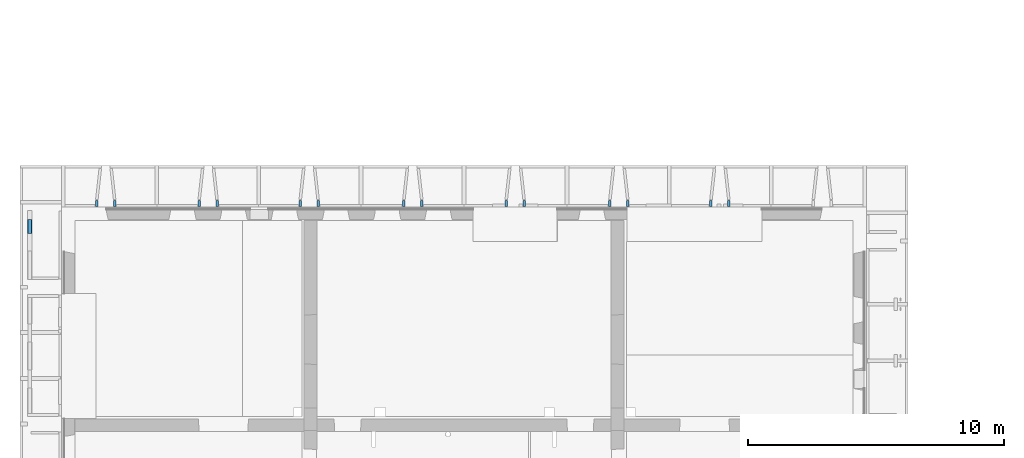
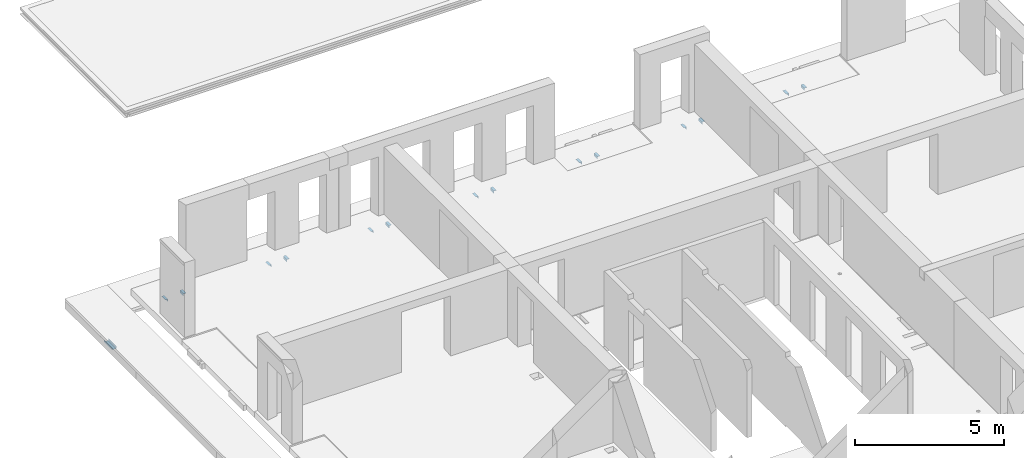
# One storey, part 18 of 27: 15 beams.
"""IFC2X3 building model written with IfcOpenShell, lengths in millimetres."""

from ifc_helpers import new_model, entity, si_unit, converted_unit, derived_unit, direction, frame, frame_2d, origin, place, context, subcontext, project, spatial, polyline, circle_curve, parameter, trimmed, segment, composite_curve, outline, extrude, material, type_object, element, save


model = new_model("IFC2X3")

# Units and contexts
model_context = context("Model", 3, precision=0.01, world=origin(), true_north=direction((6.12303176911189e-17, 1.0)))
body_context = subcontext(model_context, "Body", "Model", "MODEL_VIEW")
ifc_project = project(units=[si_unit("LENGTHUNIT", "METRE", prefix="MILLI"), si_unit("AREAUNIT", "SQUARE_METRE"), si_unit("VOLUMEUNIT", "CUBIC_METRE"), converted_unit("PLANEANGLEUNIT", "DEGREE", entity("IfcRatioMeasure", 0.0174532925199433), si_unit("PLANEANGLEUNIT", "RADIAN"), dimensions=[0, 0, 0, 0, 0, 0, 0]), si_unit("MASSUNIT", "GRAM", prefix="KILO"), derived_unit("MASSDENSITYUNIT", [(si_unit("MASSUNIT", "GRAM", prefix="KILO"), 1), (si_unit("LENGTHUNIT", "METRE"), -3)]), si_unit("TIMEUNIT", "SECOND"), si_unit("FREQUENCYUNIT", "HERTZ"), si_unit("THERMODYNAMICTEMPERATUREUNIT", "DEGREE_CELSIUS"), derived_unit("THERMALTRANSMITTANCEUNIT", [(si_unit("MASSUNIT", "GRAM", prefix="KILO"), 1), (si_unit("THERMODYNAMICTEMPERATUREUNIT", "KELVIN"), -1), (si_unit("TIMEUNIT", "SECOND"), -3)]), derived_unit("VOLUMETRICFLOWRATEUNIT", [(si_unit("LENGTHUNIT", "METRE"), 3), (si_unit("TIMEUNIT", "SECOND"), -1)]), si_unit("ELECTRICCURRENTUNIT", "AMPERE"), si_unit("ELECTRICVOLTAGEUNIT", "VOLT"), si_unit("POWERUNIT", "WATT"), si_unit("FORCEUNIT", "NEWTON", prefix="KILO"), si_unit("ILLUMINANCEUNIT", "LUX"), si_unit("LUMINOUSFLUXUNIT", "LUMEN"), si_unit("LUMINOUSINTENSITYUNIT", "CANDELA"), derived_unit("USERDEFINED", [(si_unit("MASSUNIT", "GRAM", prefix="KILO"), -1), (si_unit("LENGTHUNIT", "METRE"), -2), (si_unit("TIMEUNIT", "SECOND"), 3), (si_unit("LUMINOUSFLUXUNIT", "LUMEN"), 1)]), derived_unit("LINEARVELOCITYUNIT", [(si_unit("LENGTHUNIT", "METRE"), 1), (si_unit("TIMEUNIT", "SECOND"), -1)]), si_unit("PRESSUREUNIT", "PASCAL"), derived_unit("USERDEFINED", [(si_unit("LENGTHUNIT", "METRE"), -2), (si_unit("MASSUNIT", "GRAM", prefix="KILO"), 1), (si_unit("TIMEUNIT", "SECOND"), -2)])], contexts=[model_context])

# Site, building, storey
site_placement = place(None, origin())
site = spatial("IfcSite", under=ifc_project, at=site_placement, Name="Default", CompositionType="ELEMENT")
building_placement = place(site_placement, origin())
building = spatial("IfcBuilding", under=site, at=building_placement, Name="niet gebruiken", CompositionType="ELEMENT")
storey_placement = place(building_placement, frame((0.0, 0.0, 18000.0)))
storey = spatial("IfcBuildingStorey", under=building, at=storey_placement, Name="05 vijfde verdieping", CompositionType="ELEMENT", Elevation=18000.0)

# Beams
ifc_material = material(Name="NLRS_h2_staal")
beam_type_1 = type_object("IfcBeamType", Name="NLRS_28.11_SF_WPB_stalen ligger hoekprofiel gelijkzijdig_gen:ligger gelijzijdig hoekprofiel LEQU_100x100x10", PredefinedType="BEAM")
beam_1_placement = place(storey_placement, frame((132150.0, 33490.0, -1015.0), z_axis=(0.0, 0.0, 1.0), x_axis=(0.0, -1.0, 0.0)))
element("IfcBeam", 1, at=beam_1_placement, inside=storey, type_object=beam_type_1, material=ifc_material, Name="NLRS_28.11_SF_WPB_stalen ligger hoekprofiel gelijkzijdig_gen:ligger gelijzijdig hoekprofiel LEQU_100x100x10", ObjectType="NLRS_28.11_SF_WPB_stalen ligger hoekprofiel gelijkzijdig_gen:ligger gelijzijdig hoekprofiel LEQU_100x100x10", context=body_context, shape_type="SweptSolid", body=[
    extrude(outline(composite_curve([segment(polyline([(-37.7777777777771, -37.777777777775), (62.222222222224, -37.777777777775)]), True, "CONTINUOUS"), segment(polyline([(62.2222222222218, -37.777777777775), (62.2222222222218, -33.7777777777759)]), True, "CONTINUOUS"), segment(trimmed(circle_curve(frame_2d((56.2222222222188, -33.7777777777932), x_axis=(1.0, 0.0)), 6.00000000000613), [parameter(0.0)], [parameter(89.9999999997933)], True, "PARAMETER"), True, "CONTINUOUS"), segment(polyline([(56.2222222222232, -27.7777777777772), (-15.7777777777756, -27.7777777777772)]), True, "CONTINUOUS"), segment(trimmed(circle_curve(frame_2d((-15.77777777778, -15.77777777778), x_axis=(0.0, -1.0)), 11.9999999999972), [parameter(269.99999999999)], [parameter(0.0)], True, "PARAMETER"), False, "CONTINUOUS"), segment(polyline([(-27.7777777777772, -15.77777777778), (-27.7777777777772, 56.222222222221)]), True, "CONTINUOUS"), segment(trimmed(circle_curve(frame_2d((-33.7777777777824, 56.2222222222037), x_axis=(1.0, 0.0)), 6.00000000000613), [parameter(0.0)], [parameter(89.9999999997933)], True, "PARAMETER"), True, "CONTINUOUS"), segment(polyline([(-33.777777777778, 62.2222222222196), (-37.7777777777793, 62.2222222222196)]), True, "CONTINUOUS"), segment(polyline([(-37.7777777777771, 62.2222222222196), (-37.7777777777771, -37.777777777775)]), True, "CONTINUOUS")], self_intersect=False)), frame((0.0, -62.2222222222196, -37.7777777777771), z_axis=(1.0, 0.0, 0.0), x_axis=(0.0, 0.0, -1.0)), (0.0, 0.0, 1.0), 240.000000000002),
])
beam_2_placement = place(storey_placement, frame((135300.0, 33490.0, -1015.0), z_axis=(0.0, 0.0, 1.0), x_axis=(0.0, -1.0, 0.0)))
element("IfcBeam", 2, at=beam_2_placement, inside=storey, type_object=beam_type_1, material=ifc_material, Name="NLRS_28.11_SF_WPB_stalen ligger hoekprofiel gelijkzijdig_gen:ligger gelijzijdig hoekprofiel LEQU_100x100x10", ObjectType="NLRS_28.11_SF_WPB_stalen ligger hoekprofiel gelijkzijdig_gen:ligger gelijzijdig hoekprofiel LEQU_100x100x10", context=body_context, shape_type="SweptSolid", body=[
    extrude(outline(composite_curve([segment(polyline([(-37.7777777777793, -62.2222222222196), (-33.777777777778, -62.2222222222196)]), True, "CONTINUOUS"), segment(trimmed(circle_curve(frame_2d((-33.7777777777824, -56.2222222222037), x_axis=(0.0, -1.0)), 6.00000000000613), [parameter(0.0)], [parameter(89.9999999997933)], True, "PARAMETER"), True, "CONTINUOUS"), segment(polyline([(-27.7777777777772, -56.222222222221), (-27.7777777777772, 15.77777777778)]), True, "CONTINUOUS"), segment(trimmed(circle_curve(frame_2d((-15.77777777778, 15.77777777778), x_axis=(-1.0, 0.0)), 11.9999999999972), [parameter(269.99999999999)], [parameter(0.0)], True, "PARAMETER"), False, "CONTINUOUS"), segment(polyline([(-15.7777777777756, 27.7777777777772), (56.2222222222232, 27.7777777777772)]), True, "CONTINUOUS"), segment(trimmed(circle_curve(frame_2d((56.2222222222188, 33.7777777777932), x_axis=(0.0, -1.0)), 6.00000000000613), [parameter(0.0)], [parameter(89.9999999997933)], True, "PARAMETER"), True, "CONTINUOUS"), segment(polyline([(62.2222222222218, 33.7777777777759), (62.2222222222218, 37.777777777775)]), True, "CONTINUOUS"), segment(polyline([(62.222222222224, 37.777777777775), (-37.7777777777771, 37.777777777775)]), True, "CONTINUOUS"), segment(polyline([(-37.7777777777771, 37.777777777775), (-37.7777777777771, -62.2222222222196)]), True, "CONTINUOUS")], self_intersect=False)), frame((0.0, 62.2222222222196, -37.7777777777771), z_axis=(1.0, 0.0, 0.0), x_axis=(0.0, 0.0, -1.0)), (0.0, 0.0, 1.0), 240.000000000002),
])
beam_3_placement = place(storey_placement, frame((136100.0, 33490.0, -1015.0), z_axis=(0.0, 0.0, 1.0), x_axis=(0.0, -1.0, 0.0)))
element("IfcBeam", 3, at=beam_3_placement, inside=storey, type_object=beam_type_1, material=ifc_material, Name="NLRS_28.11_SF_WPB_stalen ligger hoekprofiel gelijkzijdig_gen:ligger gelijzijdig hoekprofiel LEQU_100x100x10", ObjectType="NLRS_28.11_SF_WPB_stalen ligger hoekprofiel gelijkzijdig_gen:ligger gelijzijdig hoekprofiel LEQU_100x100x10", context=body_context, shape_type="SweptSolid", body=[
    extrude(outline(composite_curve([segment(polyline([(-37.7777777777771, -37.777777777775), (62.222222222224, -37.777777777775)]), True, "CONTINUOUS"), segment(polyline([(62.2222222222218, -37.777777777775), (62.2222222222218, -33.7777777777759)]), True, "CONTINUOUS"), segment(trimmed(circle_curve(frame_2d((56.2222222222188, -33.7777777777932), x_axis=(1.0, 0.0)), 6.00000000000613), [parameter(0.0)], [parameter(89.9999999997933)], True, "PARAMETER"), True, "CONTINUOUS"), segment(polyline([(56.2222222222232, -27.7777777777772), (-15.7777777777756, -27.7777777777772)]), True, "CONTINUOUS"), segment(trimmed(circle_curve(frame_2d((-15.77777777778, -15.77777777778), x_axis=(0.0, -1.0)), 11.9999999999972), [parameter(269.99999999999)], [parameter(0.0)], True, "PARAMETER"), False, "CONTINUOUS"), segment(polyline([(-27.7777777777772, -15.77777777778), (-27.7777777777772, 56.222222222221)]), True, "CONTINUOUS"), segment(trimmed(circle_curve(frame_2d((-33.7777777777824, 56.2222222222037), x_axis=(1.0, 0.0)), 6.00000000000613), [parameter(0.0)], [parameter(89.9999999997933)], True, "PARAMETER"), True, "CONTINUOUS"), segment(polyline([(-33.777777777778, 62.2222222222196), (-37.7777777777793, 62.2222222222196)]), True, "CONTINUOUS"), segment(polyline([(-37.7777777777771, 62.2222222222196), (-37.7777777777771, -37.777777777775)]), True, "CONTINUOUS")], self_intersect=False)), frame((0.0, -62.2222222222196, -37.7777777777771), z_axis=(1.0, 0.0, 0.0), x_axis=(0.0, 0.0, -1.0)), (0.0, 0.0, 1.0), 240.000000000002),
])
beam_4_placement = place(storey_placement, frame((139350.0, 33490.0, -1015.0), z_axis=(0.0, 0.0, 1.0), x_axis=(0.0, -1.0, 0.0)))
element("IfcBeam", 4, at=beam_4_placement, inside=storey, type_object=beam_type_1, material=ifc_material, Name="NLRS_28.11_SF_WPB_stalen ligger hoekprofiel gelijkzijdig_gen:ligger gelijzijdig hoekprofiel LEQU_100x100x10", ObjectType="NLRS_28.11_SF_WPB_stalen ligger hoekprofiel gelijkzijdig_gen:ligger gelijzijdig hoekprofiel LEQU_100x100x10", context=body_context, shape_type="SweptSolid", body=[
    extrude(outline(composite_curve([segment(polyline([(-37.7777777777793, -62.2222222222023), (-33.777777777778, -62.2222222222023)]), True, "CONTINUOUS"), segment(trimmed(circle_curve(frame_2d((-33.7777777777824, -56.2222222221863), x_axis=(0.0, -1.0)), 6.00000000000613), [parameter(0.0)], [parameter(89.9999999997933)], True, "PARAMETER"), True, "CONTINUOUS"), segment(polyline([(-27.7777777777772, -56.2222222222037), (-27.7777777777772, 15.7777777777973)]), True, "CONTINUOUS"), segment(trimmed(circle_curve(frame_2d((-15.77777777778, 15.7777777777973), x_axis=(-1.0, 0.0)), 11.9999999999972), [parameter(269.99999999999)], [parameter(0.0)], True, "PARAMETER"), False, "CONTINUOUS"), segment(polyline([(-15.7777777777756, 27.7777777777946), (56.2222222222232, 27.7777777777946)]), True, "CONTINUOUS"), segment(trimmed(circle_curve(frame_2d((56.2222222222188, 33.7777777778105), x_axis=(0.0, -1.0)), 6.00000000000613), [parameter(0.0)], [parameter(89.9999999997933)], True, "PARAMETER"), True, "CONTINUOUS"), segment(polyline([(62.2222222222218, 33.7777777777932), (62.2222222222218, 37.7777777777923)]), True, "CONTINUOUS"), segment(polyline([(62.222222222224, 37.7777777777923), (-37.7777777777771, 37.7777777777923)]), True, "CONTINUOUS"), segment(polyline([(-37.7777777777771, 37.7777777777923), (-37.7777777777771, -62.2222222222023)]), True, "CONTINUOUS")], self_intersect=False)), frame((0.0, 62.2222222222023, -37.7777777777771), z_axis=(1.0, 0.0, 0.0), x_axis=(0.0, 0.0, -1.0)), (0.0, 0.0, 1.0), 240.000000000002),
])
beam_5_placement = place(storey_placement, frame((140150.0, 33490.0, -1015.0), z_axis=(0.0, 0.0, 1.0), x_axis=(0.0, -1.0, 0.0)))
element("IfcBeam", 5, at=beam_5_placement, inside=storey, type_object=beam_type_1, material=ifc_material, Name="NLRS_28.11_SF_WPB_stalen ligger hoekprofiel gelijkzijdig_gen:ligger gelijzijdig hoekprofiel LEQU_100x100x10", ObjectType="NLRS_28.11_SF_WPB_stalen ligger hoekprofiel gelijkzijdig_gen:ligger gelijzijdig hoekprofiel LEQU_100x100x10", context=body_context, shape_type="SweptSolid", body=[
    extrude(outline(composite_curve([segment(polyline([(-37.7777777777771, -37.7777777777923), (62.222222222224, -37.7777777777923)]), True, "CONTINUOUS"), segment(polyline([(62.2222222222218, -37.7777777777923), (62.2222222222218, -33.7777777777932)]), True, "CONTINUOUS"), segment(trimmed(circle_curve(frame_2d((56.2222222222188, -33.7777777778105), x_axis=(1.0, 0.0)), 6.00000000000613), [parameter(0.0)], [parameter(89.9999999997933)], True, "PARAMETER"), True, "CONTINUOUS"), segment(polyline([(56.2222222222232, -27.7777777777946), (-15.7777777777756, -27.7777777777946)]), True, "CONTINUOUS"), segment(trimmed(circle_curve(frame_2d((-15.77777777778, -15.7777777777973), x_axis=(0.0, -1.0)), 11.9999999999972), [parameter(269.99999999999)], [parameter(0.0)], True, "PARAMETER"), False, "CONTINUOUS"), segment(polyline([(-27.7777777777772, -15.7777777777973), (-27.7777777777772, 56.2222222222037)]), True, "CONTINUOUS"), segment(trimmed(circle_curve(frame_2d((-33.7777777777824, 56.2222222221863), x_axis=(1.0, 0.0)), 6.00000000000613), [parameter(0.0)], [parameter(89.9999999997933)], True, "PARAMETER"), True, "CONTINUOUS"), segment(polyline([(-33.777777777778, 62.2222222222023), (-37.7777777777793, 62.2222222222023)]), True, "CONTINUOUS"), segment(polyline([(-37.7777777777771, 62.2222222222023), (-37.7777777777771, -37.7777777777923)]), True, "CONTINUOUS")], self_intersect=False)), frame((0.0, -62.2222222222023, -37.7777777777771), z_axis=(1.0, 0.0, 0.0), x_axis=(0.0, 0.0, -1.0)), (0.0, 0.0, 1.0), 240.000000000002),
])
beam_6_placement = place(storey_placement, frame((143350.0, 33490.0, -1015.0), z_axis=(0.0, 0.0, 1.0), x_axis=(0.0, -1.0, 0.0)))
element("IfcBeam", 6, at=beam_6_placement, inside=storey, type_object=beam_type_1, material=ifc_material, Name="NLRS_28.11_SF_WPB_stalen ligger hoekprofiel gelijkzijdig_gen:ligger gelijzijdig hoekprofiel LEQU_100x100x10", ObjectType="NLRS_28.11_SF_WPB_stalen ligger hoekprofiel gelijkzijdig_gen:ligger gelijzijdig hoekprofiel LEQU_100x100x10", context=body_context, shape_type="SweptSolid", body=[
    extrude(outline(composite_curve([segment(polyline([(-37.7777777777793, -62.2222222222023), (-33.777777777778, -62.2222222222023)]), True, "CONTINUOUS"), segment(trimmed(circle_curve(frame_2d((-33.7777777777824, -56.2222222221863), x_axis=(0.0, -1.0)), 6.00000000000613), [parameter(0.0)], [parameter(89.9999999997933)], True, "PARAMETER"), True, "CONTINUOUS"), segment(polyline([(-27.7777777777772, -56.2222222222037), (-27.7777777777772, 15.7777777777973)]), True, "CONTINUOUS"), segment(trimmed(circle_curve(frame_2d((-15.77777777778, 15.7777777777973), x_axis=(-1.0, 0.0)), 11.9999999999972), [parameter(269.99999999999)], [parameter(0.0)], True, "PARAMETER"), False, "CONTINUOUS"), segment(polyline([(-15.7777777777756, 27.7777777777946), (56.2222222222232, 27.7777777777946)]), True, "CONTINUOUS"), segment(trimmed(circle_curve(frame_2d((56.2222222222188, 33.7777777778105), x_axis=(0.0, -1.0)), 6.00000000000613), [parameter(0.0)], [parameter(89.9999999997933)], True, "PARAMETER"), True, "CONTINUOUS"), segment(polyline([(62.2222222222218, 33.7777777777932), (62.2222222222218, 37.7777777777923)]), True, "CONTINUOUS"), segment(polyline([(62.222222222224, 37.7777777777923), (-37.7777777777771, 37.7777777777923)]), True, "CONTINUOUS"), segment(polyline([(-37.7777777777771, 37.7777777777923), (-37.7777777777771, -62.2222222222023)]), True, "CONTINUOUS")], self_intersect=False)), frame((0.0, 62.2222222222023, -37.7777777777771), z_axis=(1.0, 0.0, 0.0), x_axis=(0.0, 0.0, -1.0)), (0.0, 0.0, 1.0), 240.000000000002),
])
beam_7_placement = place(storey_placement, frame((144150.0, 33490.0, -1015.0), z_axis=(0.0, 0.0, 1.0), x_axis=(0.0, -1.0, 0.0)))
element("IfcBeam", 7, at=beam_7_placement, inside=storey, type_object=beam_type_1, material=ifc_material, Name="NLRS_28.11_SF_WPB_stalen ligger hoekprofiel gelijkzijdig_gen:ligger gelijzijdig hoekprofiel LEQU_100x100x10", ObjectType="NLRS_28.11_SF_WPB_stalen ligger hoekprofiel gelijkzijdig_gen:ligger gelijzijdig hoekprofiel LEQU_100x100x10", context=body_context, shape_type="SweptSolid", body=[
    extrude(outline(composite_curve([segment(polyline([(-37.7777777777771, -37.7777777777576), (62.222222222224, -37.7777777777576)]), True, "CONTINUOUS"), segment(polyline([(62.2222222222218, -37.7777777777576), (62.2222222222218, -33.7777777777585)]), True, "CONTINUOUS"), segment(trimmed(circle_curve(frame_2d((56.2222222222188, -33.7777777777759), x_axis=(1.0, 0.0)), 6.00000000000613), [parameter(0.0)], [parameter(89.9999999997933)], True, "PARAMETER"), True, "CONTINUOUS"), segment(polyline([(56.2222222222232, -27.7777777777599), (-15.7777777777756, -27.7777777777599)]), True, "CONTINUOUS"), segment(trimmed(circle_curve(frame_2d((-15.77777777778, -15.7777777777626), x_axis=(0.0, -1.0)), 11.9999999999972), [parameter(269.99999999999)], [parameter(0.0)], True, "PARAMETER"), False, "CONTINUOUS"), segment(polyline([(-27.7777777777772, -15.7777777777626), (-27.7777777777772, 56.2222222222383)]), True, "CONTINUOUS"), segment(trimmed(circle_curve(frame_2d((-33.7777777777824, 56.222222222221), x_axis=(1.0, 0.0)), 6.00000000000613), [parameter(0.0)], [parameter(89.9999999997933)], True, "PARAMETER"), True, "CONTINUOUS"), segment(polyline([(-33.777777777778, 62.222222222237), (-37.7777777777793, 62.222222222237)]), True, "CONTINUOUS"), segment(polyline([(-37.7777777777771, 62.222222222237), (-37.7777777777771, -37.7777777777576)]), True, "CONTINUOUS")], self_intersect=False)), frame((0.0, -62.222222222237, -37.7777777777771), z_axis=(1.0, 0.0, 0.0), x_axis=(0.0, 0.0, -1.0)), (0.0, 0.0, 1.0), 240.000000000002),
])
beam_8_placement = place(storey_placement, frame((147400.0, 33490.0, -1015.0), z_axis=(0.0, 0.0, 1.0), x_axis=(0.0, -1.0, 0.0)))
element("IfcBeam", 8, at=beam_8_placement, inside=storey, type_object=beam_type_1, material=ifc_material, Name="NLRS_28.11_SF_WPB_stalen ligger hoekprofiel gelijkzijdig_gen:ligger gelijzijdig hoekprofiel LEQU_100x100x10", ObjectType="NLRS_28.11_SF_WPB_stalen ligger hoekprofiel gelijkzijdig_gen:ligger gelijzijdig hoekprofiel LEQU_100x100x10", context=body_context, shape_type="SweptSolid", body=[
    extrude(outline(composite_curve([segment(polyline([(-37.7777777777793, -62.222222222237), (-33.777777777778, -62.222222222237)]), True, "CONTINUOUS"), segment(trimmed(circle_curve(frame_2d((-33.7777777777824, -56.222222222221), x_axis=(0.0, -1.0)), 6.00000000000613), [parameter(0.0)], [parameter(89.9999999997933)], True, "PARAMETER"), True, "CONTINUOUS"), segment(polyline([(-27.7777777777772, -56.2222222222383), (-27.7777777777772, 15.7777777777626)]), True, "CONTINUOUS"), segment(trimmed(circle_curve(frame_2d((-15.77777777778, 15.7777777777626), x_axis=(-1.0, 0.0)), 11.9999999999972), [parameter(269.99999999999)], [parameter(0.0)], True, "PARAMETER"), False, "CONTINUOUS"), segment(polyline([(-15.7777777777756, 27.7777777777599), (56.2222222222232, 27.7777777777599)]), True, "CONTINUOUS"), segment(trimmed(circle_curve(frame_2d((56.2222222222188, 33.7777777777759), x_axis=(0.0, -1.0)), 6.00000000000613), [parameter(0.0)], [parameter(89.9999999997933)], True, "PARAMETER"), True, "CONTINUOUS"), segment(polyline([(62.2222222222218, 33.7777777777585), (62.2222222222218, 37.7777777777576)]), True, "CONTINUOUS"), segment(polyline([(62.222222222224, 37.7777777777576), (-37.7777777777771, 37.7777777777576)]), True, "CONTINUOUS"), segment(polyline([(-37.7777777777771, 37.7777777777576), (-37.7777777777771, -62.222222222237)]), True, "CONTINUOUS")], self_intersect=False)), frame((0.0, 62.222222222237, -37.7777777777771), z_axis=(1.0, 0.0, 0.0), x_axis=(0.0, 0.0, -1.0)), (0.0, 0.0, 1.0), 240.000000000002),
])
beam_9_placement = place(storey_placement, frame((128150.0, 33490.0, -1015.0), z_axis=(0.0, 0.0, 1.0), x_axis=(0.0, -1.0, 0.0)))
element("IfcBeam", 9, at=beam_9_placement, inside=storey, type_object=beam_type_1, material=ifc_material, Name="NLRS_28.11_SF_WPB_stalen ligger hoekprofiel gelijkzijdig_gen:ligger gelijzijdig hoekprofiel LEQU_100x100x10", ObjectType="NLRS_28.11_SF_WPB_stalen ligger hoekprofiel gelijkzijdig_gen:ligger gelijzijdig hoekprofiel LEQU_100x100x10", context=body_context, shape_type="SweptSolid", body=[
    extrude(outline(composite_curve([segment(polyline([(-37.7777777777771, -37.7777777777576), (62.222222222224, -37.7777777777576)]), True, "CONTINUOUS"), segment(polyline([(62.2222222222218, -37.7777777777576), (62.2222222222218, -33.7777777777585)]), True, "CONTINUOUS"), segment(trimmed(circle_curve(frame_2d((56.2222222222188, -33.7777777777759), x_axis=(1.0, 0.0)), 6.00000000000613), [parameter(0.0)], [parameter(89.9999999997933)], True, "PARAMETER"), True, "CONTINUOUS"), segment(polyline([(56.2222222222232, -27.7777777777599), (-15.7777777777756, -27.7777777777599)]), True, "CONTINUOUS"), segment(trimmed(circle_curve(frame_2d((-15.77777777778, -15.7777777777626), x_axis=(0.0, -1.0)), 11.9999999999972), [parameter(269.99999999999)], [parameter(0.0)], True, "PARAMETER"), False, "CONTINUOUS"), segment(polyline([(-27.7777777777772, -15.7777777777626), (-27.7777777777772, 56.2222222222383)]), True, "CONTINUOUS"), segment(trimmed(circle_curve(frame_2d((-33.7777777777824, 56.222222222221), x_axis=(1.0, 0.0)), 6.00000000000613), [parameter(0.0)], [parameter(89.9999999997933)], True, "PARAMETER"), True, "CONTINUOUS"), segment(polyline([(-33.777777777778, 62.222222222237), (-37.7777777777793, 62.222222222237)]), True, "CONTINUOUS"), segment(polyline([(-37.7777777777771, 62.222222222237), (-37.7777777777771, -37.7777777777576)]), True, "CONTINUOUS")], self_intersect=False)), frame((0.0, -62.222222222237, -37.7777777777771), z_axis=(1.0, 0.0, 0.0), x_axis=(0.0, 0.0, -1.0)), (0.0, 0.0, 1.0), 240.000000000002),
])
beam_10_placement = place(storey_placement, frame((131350.0, 33490.0, -1015.0), z_axis=(0.0, 0.0, 1.0), x_axis=(0.0, -1.0, 0.0)))
element("IfcBeam", 10, at=beam_10_placement, inside=storey, type_object=beam_type_1, material=ifc_material, Name="NLRS_28.11_SF_WPB_stalen ligger hoekprofiel gelijkzijdig_gen:ligger gelijzijdig hoekprofiel LEQU_100x100x10", ObjectType="NLRS_28.11_SF_WPB_stalen ligger hoekprofiel gelijkzijdig_gen:ligger gelijzijdig hoekprofiel LEQU_100x100x10", context=body_context, shape_type="SweptSolid", body=[
    extrude(outline(composite_curve([segment(polyline([(-37.7777777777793, -62.2222222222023), (-33.777777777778, -62.2222222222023)]), True, "CONTINUOUS"), segment(trimmed(circle_curve(frame_2d((-33.7777777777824, -56.2222222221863), x_axis=(0.0, -1.0)), 6.00000000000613), [parameter(0.0)], [parameter(89.9999999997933)], True, "PARAMETER"), True, "CONTINUOUS"), segment(polyline([(-27.7777777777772, -56.2222222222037), (-27.7777777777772, 15.7777777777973)]), True, "CONTINUOUS"), segment(trimmed(circle_curve(frame_2d((-15.77777777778, 15.7777777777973), x_axis=(-1.0, 0.0)), 11.9999999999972), [parameter(269.99999999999)], [parameter(0.0)], True, "PARAMETER"), False, "CONTINUOUS"), segment(polyline([(-15.7777777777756, 27.7777777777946), (56.2222222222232, 27.7777777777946)]), True, "CONTINUOUS"), segment(trimmed(circle_curve(frame_2d((56.2222222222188, 33.7777777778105), x_axis=(0.0, -1.0)), 6.00000000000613), [parameter(0.0)], [parameter(89.9999999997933)], True, "PARAMETER"), True, "CONTINUOUS"), segment(polyline([(62.2222222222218, 33.7777777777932), (62.2222222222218, 37.7777777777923)]), True, "CONTINUOUS"), segment(polyline([(62.222222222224, 37.7777777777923), (-37.7777777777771, 37.7777777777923)]), True, "CONTINUOUS"), segment(polyline([(-37.7777777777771, 37.7777777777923), (-37.7777777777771, -62.2222222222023)]), True, "CONTINUOUS")], self_intersect=False)), frame((0.0, 62.2222222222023, -37.7777777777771), z_axis=(1.0, 0.0, 0.0), x_axis=(0.0, 0.0, -1.0)), (0.0, 0.0, 1.0), 240.000000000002),
])
beam_11_placement = place(storey_placement, frame((127350.0, 33490.0, -1015.0), z_axis=(0.0, 0.0, 1.0), x_axis=(0.0, -1.0, 0.0)))
element("IfcBeam", 11, at=beam_11_placement, inside=storey, type_object=beam_type_1, material=ifc_material, Name="NLRS_28.11_SF_WPB_stalen ligger hoekprofiel gelijkzijdig_gen:ligger gelijzijdig hoekprofiel LEQU_100x100x10", ObjectType="NLRS_28.11_SF_WPB_stalen ligger hoekprofiel gelijkzijdig_gen:ligger gelijzijdig hoekprofiel LEQU_100x100x10", context=body_context, shape_type="SweptSolid", body=[
    extrude(outline(composite_curve([segment(polyline([(-37.7777777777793, -62.2222222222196), (-33.777777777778, -62.2222222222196)]), True, "CONTINUOUS"), segment(trimmed(circle_curve(frame_2d((-33.7777777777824, -56.2222222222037), x_axis=(0.0, -1.0)), 6.00000000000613), [parameter(0.0)], [parameter(89.9999999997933)], True, "PARAMETER"), True, "CONTINUOUS"), segment(polyline([(-27.7777777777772, -56.222222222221), (-27.7777777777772, 15.77777777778)]), True, "CONTINUOUS"), segment(trimmed(circle_curve(frame_2d((-15.77777777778, 15.77777777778), x_axis=(-1.0, 0.0)), 11.9999999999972), [parameter(269.99999999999)], [parameter(0.0)], True, "PARAMETER"), False, "CONTINUOUS"), segment(polyline([(-15.7777777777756, 27.7777777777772), (56.2222222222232, 27.7777777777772)]), True, "CONTINUOUS"), segment(trimmed(circle_curve(frame_2d((56.2222222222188, 33.7777777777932), x_axis=(0.0, -1.0)), 6.00000000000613), [parameter(0.0)], [parameter(89.9999999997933)], True, "PARAMETER"), True, "CONTINUOUS"), segment(polyline([(62.2222222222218, 33.7777777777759), (62.2222222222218, 37.777777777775)]), True, "CONTINUOUS"), segment(polyline([(62.222222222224, 37.777777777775), (-37.7777777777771, 37.777777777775)]), True, "CONTINUOUS"), segment(polyline([(-37.7777777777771, 37.777777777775), (-37.7777777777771, -62.2222222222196)]), True, "CONTINUOUS")], self_intersect=False)), frame((0.0, 62.2222222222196, -37.7777777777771), z_axis=(1.0, 0.0, 0.0), x_axis=(0.0, 0.0, -1.0)), (0.0, 0.0, 1.0), 240.000000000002),
])
for number, where, z_axis, x_axis, name in (
    (12, (152150.0, 33490.0, -1015.0), (0.0, 0.0, 1.0), (0.0, -1.0, 0.0), "NLRS_28.11_SF_WPB_stalen ligger hoekprofiel gelijkzijdig_gen:ligger gelijzijdig hoekprofiel LEQU_100x100x10"),
    (13, (148200.0, 33490.0, -1015.0), (0.0, 0.0, 1.0), (0.0, -1.0, 0.0), "NLRS_28.11_SF_WPB_stalen ligger hoekprofiel gelijkzijdig_gen:ligger gelijzijdig hoekprofiel LEQU_100x100x10"),
):
    element("IfcBeam", number, at=place(storey_placement, frame(where, z_axis=z_axis, x_axis=x_axis)), inside=storey, type_object=beam_type_1, material=ifc_material, Name=name, ObjectType="NLRS_28.11_SF_WPB_stalen ligger hoekprofiel gelijkzijdig_gen:ligger gelijzijdig hoekprofiel LEQU_100x100x10", context=body_context, shape_type="SweptSolid", body=[
        extrude(outline(composite_curve([segment(polyline([(-37.7777777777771, -37.7777777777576), (62.222222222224, -37.7777777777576)]), True, "CONTINUOUS"), segment(polyline([(62.2222222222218, -37.7777777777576), (62.2222222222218, -33.7777777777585)]), True, "CONTINUOUS"), segment(trimmed(circle_curve(frame_2d((56.2222222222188, -33.7777777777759), x_axis=(1.0, 0.0)), 6.00000000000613), [parameter(0.0)], [parameter(89.9999999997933)], True, "PARAMETER"), True, "CONTINUOUS"), segment(polyline([(56.2222222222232, -27.7777777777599), (-15.7777777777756, -27.7777777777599)]), True, "CONTINUOUS"), segment(trimmed(circle_curve(frame_2d((-15.77777777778, -15.7777777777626), x_axis=(0.0, -1.0)), 11.9999999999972), [parameter(269.99999999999)], [parameter(0.0)], True, "PARAMETER"), False, "CONTINUOUS"), segment(polyline([(-27.7777777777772, -15.7777777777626), (-27.7777777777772, 56.2222222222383)]), True, "CONTINUOUS"), segment(trimmed(circle_curve(frame_2d((-33.7777777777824, 56.222222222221), x_axis=(1.0, 0.0)), 6.00000000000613), [parameter(0.0)], [parameter(89.9999999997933)], True, "PARAMETER"), True, "CONTINUOUS"), segment(polyline([(-33.777777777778, 62.222222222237), (-37.7777777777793, 62.222222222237)]), True, "CONTINUOUS"), segment(polyline([(-37.7777777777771, 62.222222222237), (-37.7777777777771, -37.7777777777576)]), True, "CONTINUOUS")], self_intersect=False)), frame((0.0, -62.222222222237, -37.7777777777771), z_axis=(1.0, 0.0, 0.0), x_axis=(0.0, 0.0, -1.0)), (0.0, 0.0, 1.0), 240.000000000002),
    ])
beam_12_placement = place(storey_placement, frame((151350.0, 33490.0, -1015.0), z_axis=(0.0, 0.0, 1.0), x_axis=(0.0, -1.0, 0.0)))
element("IfcBeam", 14, at=beam_12_placement, inside=storey, type_object=beam_type_1, material=ifc_material, Name="NLRS_28.11_SF_WPB_stalen ligger hoekprofiel gelijkzijdig_gen:ligger gelijzijdig hoekprofiel LEQU_100x100x10", ObjectType="NLRS_28.11_SF_WPB_stalen ligger hoekprofiel gelijkzijdig_gen:ligger gelijzijdig hoekprofiel LEQU_100x100x10", context=body_context, shape_type="SweptSolid", body=[
    extrude(outline(composite_curve([segment(polyline([(-37.7777777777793, -62.2222222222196), (-33.777777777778, -62.2222222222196)]), True, "CONTINUOUS"), segment(trimmed(circle_curve(frame_2d((-33.7777777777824, -56.2222222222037), x_axis=(0.0, -1.0)), 6.00000000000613), [parameter(0.0)], [parameter(89.9999999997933)], True, "PARAMETER"), True, "CONTINUOUS"), segment(polyline([(-27.7777777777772, -56.222222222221), (-27.7777777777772, 15.77777777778)]), True, "CONTINUOUS"), segment(trimmed(circle_curve(frame_2d((-15.77777777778, 15.77777777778), x_axis=(-1.0, 0.0)), 11.9999999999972), [parameter(269.99999999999)], [parameter(0.0)], True, "PARAMETER"), False, "CONTINUOUS"), segment(polyline([(-15.7777777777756, 27.7777777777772), (56.2222222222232, 27.7777777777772)]), True, "CONTINUOUS"), segment(trimmed(circle_curve(frame_2d((56.2222222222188, 33.7777777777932), x_axis=(0.0, -1.0)), 6.00000000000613), [parameter(0.0)], [parameter(89.9999999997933)], True, "PARAMETER"), True, "CONTINUOUS"), segment(polyline([(62.2222222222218, 33.7777777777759), (62.2222222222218, 37.777777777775)]), True, "CONTINUOUS"), segment(polyline([(62.222222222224, 37.777777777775), (-37.7777777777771, 37.777777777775)]), True, "CONTINUOUS"), segment(polyline([(-37.7777777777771, 37.777777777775), (-37.7777777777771, -62.2222222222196)]), True, "CONTINUOUS")], self_intersect=False)), frame((0.0, 62.2222222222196, -37.7777777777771), z_axis=(1.0, 0.0, 0.0), x_axis=(0.0, 0.0, -1.0)), (0.0, 0.0, 1.0), 240.000000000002),
])
beam_type_2 = type_object("IfcBeamType", Name="NLRS_28.11_SF_WPB_stalen ligger UNP_gen:ligger UNP 180", PredefinedType="BEAM")
beam_13_placement = place(storey_placement, frame((124685.0, 32731.0, -1492.0), z_axis=(0.0, 0.0, 1.0), x_axis=(0.0, -1.0, 0.0)))
element("IfcBeam", 15, at=beam_13_placement, inside=storey, type_object=beam_type_2, material=ifc_material, Name="NLRS_28.11_SF_WPB_stalen ligger UNP_gen:ligger UNP 180", ObjectType="NLRS_28.11_SF_WPB_stalen ligger UNP_gen:ligger UNP 180", context=body_context, shape_type="SweptSolid", body=[
    extrude(outline(composite_curve([segment(polyline([(-31.4166666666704, -90.062397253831), (38.5833333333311, -90.062397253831)]), True, "CONTINUOUS"), segment(polyline([(38.5833333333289, -90.062397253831), (38.5833333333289, 89.9376027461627)]), True, "CONTINUOUS"), segment(polyline([(38.5833333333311, 89.9376027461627), (-31.4166666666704, 89.9376027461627)]), True, "CONTINUOUS"), segment(polyline([(-31.4166666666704, 89.9376027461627), (-31.4166666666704, 84.8052017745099)]), True, "CONTINUOUS"), segment(trimmed(circle_curve(frame_2d((-25.9166666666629, 84.8052017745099), x_axis=(-1.0, 0.0)), 5.50000000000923), [parameter(0.0)], [parameter(89.9999999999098)], True, "PARAMETER"), True, "CONTINUOUS"), segment(polyline([(-25.9166666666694, 79.3052017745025), (19.5833333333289, 76.6504127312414)]), True, "CONTINUOUS"), segment(trimmed(circle_curve(frame_2d((19.5833333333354, 65.6504127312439), x_axis=(0.0, 1.0)), 10.9999999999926), [parameter(269.999999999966)], [parameter(0.0)], True, "PARAMETER"), False, "CONTINUOUS"), segment(polyline([(30.5833333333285, 65.6504127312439), (30.5833333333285, -65.1358606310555)]), True, "CONTINUOUS"), segment(trimmed(circle_curve(frame_2d((19.5833333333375, -65.1358606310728), x_axis=(1.0, 0.0)), 10.9999999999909), [parameter(269.999999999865)], [parameter(0.0)], True, "PARAMETER"), False, "CONTINUOUS"), segment(polyline([(19.5833333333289, -76.1358606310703), (-25.9166666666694, -79.6949593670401)]), True, "CONTINUOUS"), segment(trimmed(circle_curve(frame_2d((-25.9166666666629, -85.1949593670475), x_axis=(0.0, 1.0)), 5.50000000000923), [parameter(0.0)], [parameter(89.9999999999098)], True, "PARAMETER"), True, "CONTINUOUS"), segment(polyline([(-31.4166666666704, -85.1949593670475), (-31.4166666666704, -90.0623972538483)]), True, "CONTINUOUS")], self_intersect=False)), frame((0.0, 90.062397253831, 38.5833333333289), z_axis=(1.0, 0.0, 0.0), x_axis=(0.0, 0.0, -1.0)), (0.0, 0.0, 1.0), 530.999999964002),
])

save(model, "model.ifc")
